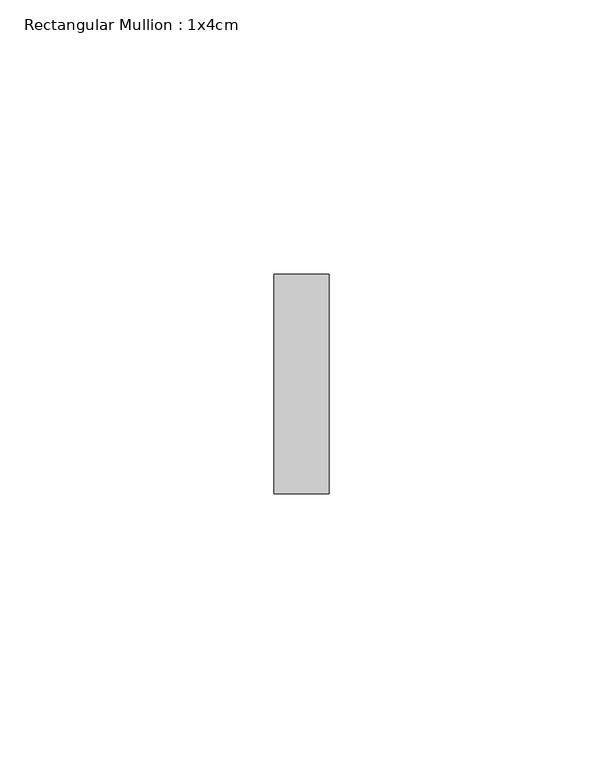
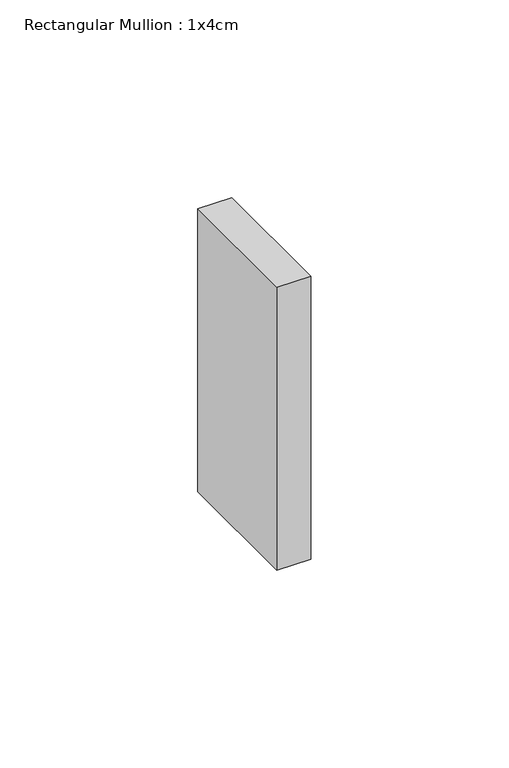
"""IFC4 building model written with IfcOpenShell, lengths in millimetres: member geometry, Rectangular Mullion : 1x4cm."""

import ifcopenshell
import ifcopenshell.guid

model = None  # the IFC model being written
_history = None  # IfcOwnerHistory: only IFC2X3 demands one
_inside = {}  # id of a spatial element -> (the spatial element, [elements in it])
_under = {}  # id of a project, library or spatial element -> (it, [spatial elements below it])
_declared = {}  # id of a project -> (the project, [libraries it declares])
_typed = {}  # id of a type object -> (the type object, [elements of that type])
_made_of = {}  # id of a material, layer set ... -> (it, [elements and type objects made of it])


def new_model(schema):
    """Start an empty IFC model of exactly this schema.

    Asked for "IFC4X3", IfcOpenShell would pick the latest addendum, in which some entities
    have other attributes; the version numbers below select the first issue.
    IFC2X3 requires an IfcOwnerHistory on every rooted entity: one is made here for all.
    """
    global model, _history
    if schema == "IFC4X3":
        model = ifcopenshell.file(schema_version=(4, 3, 0, 0))
    else:
        model = ifcopenshell.file(schema=schema)
    _inside.clear()
    _under.clear()
    _declared.clear()
    _typed.clear()
    _made_of.clear()
    _history = None
    if model.schema == "IFC2X3":
        org = make("IfcOrganization", Name="unknown")
        user = make(
            "IfcPersonAndOrganization",
            ThePerson=make("IfcPerson", FamilyName="unknown"),
            TheOrganization=org,
        )
        app = make(
            "IfcApplication",
            ApplicationDeveloper=org,
            Version="unknown",
            ApplicationFullName="unknown",
            ApplicationIdentifier="unknown",
        )
        _history = make(
            "IfcOwnerHistory",
            OwningUser=user,
            OwningApplication=app,
            ChangeAction="ADDED",
            CreationDate=0,
        )
    return model


def make(cls, **values):
    """One entity of the class cls with the attributes given. An attribute that is None is left unset."""
    return model.create_entity(
        cls, **{name: value for name, value in values.items() if value is not None}
    )


def rooted(cls, **values):
    """An entity with a GlobalId (a new one), such as an element, a storey or a relation."""
    return make(cls, GlobalId=ifcopenshell.guid.new(), OwnerHistory=_history, **values)


def si_unit(unit_type, name, prefix=None):
    """IfcSIUnit, for example si_unit("LENGTHUNIT", "METRE", prefix="MILLI")."""
    return make("IfcSIUnit", UnitType=unit_type, Prefix=prefix, Name=name)


def assignment(units):
    """IfcUnitAssignment: the units of a project."""
    return None if units is None else make("IfcUnitAssignment", Units=units)


def point(xyz):
    """IfcCartesianPoint."""
    return None if xyz is None else make("IfcCartesianPoint", Coordinates=xyz)


def direction(xyz):
    """IfcDirection."""
    return None if xyz is None else make("IfcDirection", DirectionRatios=xyz)


def frame(location, z_axis=None, x_axis=None):
    """IfcAxis2Placement3D, a coordinate frame: its origin and axes. An axis left out is left unset."""
    return make(
        "IfcAxis2Placement3D",
        Location=point(location),
        Axis=direction(z_axis),
        RefDirection=direction(x_axis),
    )


def origin():
    """The frame at (0, 0, 0) with its axes left unset."""
    return frame((0.0, 0.0, 0.0))


def place(relative_to, where):
    """IfcLocalPlacement: puts the frame where relative to a parent placement (None: the world)."""
    return make(
        "IfcLocalPlacement", PlacementRelTo=relative_to, RelativePlacement=where
    )


def context(
    kind, dimensions, precision=None, world=None, true_north=None, identifier=None
):
    """IfcGeometricRepresentationContext, for example the 3D "Model" context."""
    return make(
        "IfcGeometricRepresentationContext",
        ContextIdentifier=identifier,
        ContextType=kind,
        CoordinateSpaceDimension=dimensions,
        Precision=precision,
        WorldCoordinateSystem=world,
        TrueNorth=true_north,
    )


def project(units=None, contexts=None):
    """IfcProject with its units and contexts."""
    return rooted(
        "IfcProject",
        Name="project",
        RepresentationContexts=contexts,
        UnitsInContext=assignment(units),
    )


def spatial(cls, under=None, at=None, **own):
    """A site, building, storey or space (cls), placed at a placement, below another one or the project."""
    s = rooted(cls, ObjectPlacement=at, **own)
    if under is not None:
        _under.setdefault(under.id(), (under, []))[1].append(s)
    return s


def polyline(points):
    """IfcPolyline through the points."""
    return make("IfcPolyline", Points=[point(p) for p in points])


def outline(outer, holes=None, kind="AREA"):
    """IfcArbitraryClosedProfileDef: a profile drawn as a closed curve; with holes, ...WithVoids."""
    if holes is None:
        return make("IfcArbitraryClosedProfileDef", ProfileType=kind, OuterCurve=outer)
    return make(
        "IfcArbitraryProfileDefWithVoids",
        ProfileType=kind,
        OuterCurve=outer,
        InnerCurves=holes,
    )


def extrude(swept, where, along, depth):
    """IfcExtrudedAreaSolid: the profile swept, set in the frame where, extruded along a direction by depth."""
    return make(
        "IfcExtrudedAreaSolid",
        SweptArea=swept,
        Position=where,
        ExtrudedDirection=direction(along),
        Depth=depth,
    )


def shape(context_of_items, identifier, shape_type, items):
    """IfcShapeRepresentation: the items that make up one representation, for example the "Body"."""
    return make(
        "IfcShapeRepresentation",
        ContextOfItems=context_of_items,
        RepresentationIdentifier=identifier,
        RepresentationType=shape_type,
        Items=items,
    )


def source(mapping_origin, context_of_items, identifier, shape_type, items):
    """IfcRepresentationMap: a shape defined once, which mapped items show again and again."""
    return make(
        "IfcRepresentationMap",
        MappingOrigin=mapping_origin,
        MappedRepresentation=shape(context_of_items, identifier, shape_type, items),
    )


def transform(
    local_origin,
    x_axis=None,
    y_axis=None,
    z_axis=None,
    scale=None,
    scale2=None,
    scale3=None,
    uniform=True,
):
    """IfcCartesianTransformationOperator3D, or its non-uniform kind. x_axis, y_axis, z_axis: its Axis1, 2, 3."""
    if uniform:
        return make(
            "IfcCartesianTransformationOperator3D",
            Axis1=direction(x_axis),
            Axis2=direction(y_axis),
            LocalOrigin=point(local_origin),
            Scale=scale,
            Axis3=direction(z_axis),
        )
    return make(
        "IfcCartesianTransformationOperator3DnonUniform",
        Axis1=direction(x_axis),
        Axis2=direction(y_axis),
        LocalOrigin=point(local_origin),
        Scale=scale,
        Axis3=direction(z_axis),
        Scale2=scale2,
        Scale3=scale3,
    )


def mapped(mapping_source, mapping_target):
    """IfcMappedItem: shows the shape of a source again, moved by a transform."""
    return make(
        "IfcMappedItem", MappingSource=mapping_source, MappingTarget=mapping_target
    )


def made_of(thing, what):
    """Note that an element or type object is made of a material, layer set ...; save() writes the relation."""
    if what is not None:
        _made_of.setdefault(what.id(), (what, []))[1].append(thing)
    return thing


def element(
    cls,
    number,
    at=None,
    inside=None,
    cuts=None,
    type_object=None,
    material=None,
    context=None,
    identifier="Body",
    shape_type=None,
    held_by="IfcProductDefinitionShape",
    body=None,
    shapes=None,
    **own,
):
    """One element of the class cls, such as IfcWall. Its Tag is "e" and its number.

    at: its placement. inside: the storey or other place that contains it. cuts: it is an
    opening in that element (IfcRelVoidsElement). A single representation is given by context,
    identifier, shape_type and body (its items); several are given by shapes. held_by: the class
    of the entity that holds the representations. save() writes the other relations.
    """
    e = rooted(cls, Tag="e%d" % number, ObjectPlacement=at, **own)
    if body is not None:
        shapes = [shape(context, identifier, shape_type, body)]
    if shapes is not None:
        e.Representation = make(held_by, Representations=shapes)
    if inside is not None:
        _inside.setdefault(inside.id(), (inside, []))[1].append(e)
    if cuts is not None:
        rooted(
            "IfcRelVoidsElement", RelatingBuildingElement=cuts, RelatedOpeningElement=e
        )
    if type_object is not None:
        _typed.setdefault(type_object.id(), (type_object, []))[1].append(e)
    return made_of(e, material)


def aggregate(whole, parts):
    """IfcRelAggregates: a whole, such as a stair, and the parts it consists of."""
    return rooted("IfcRelAggregates", RelatingObject=whole, RelatedObjects=parts)


def save(model, path):
    """Write the relations noted so far, then the file.

    IfcRelAggregates (storeys below a building ...), IfcRelContainedInSpatialStructure (elements
    in a storey), IfcRelDefinesByType, IfcRelAssociatesMaterial and IfcRelDeclares: one each for
    every whole, place, type object, material and project.
    """
    for whole, parts in _under.values():
        aggregate(whole, parts)
    for where, things in _inside.values():
        rooted(
            "IfcRelContainedInSpatialStructure",
            RelatedElements=things,
            RelatingStructure=where,
        )
    for kind, things in _typed.values():
        rooted("IfcRelDefinesByType", RelatedObjects=things, RelatingType=kind)
    for what, things in _made_of.values():
        rooted("IfcRelAssociatesMaterial", RelatedObjects=things, RelatingMaterial=what)
    for by, libraries in _declared.values():
        rooted("IfcRelDeclares", RelatingContext=by, RelatedDefinitions=libraries)
    model.write(path)


def rectangular_mullion_1x4cm_b486f322(model_context):
    return source(origin(), model_context, "Body", "SweptSolid", [
        extrude(outline(polyline([(0.0, 20.0), (0.0, -20.0), (-10.0, -20.0), (-10.0, 20.0), (0.0, 20.0)])), frame((0.0, 0.0, -87.3695615), z_axis=(0.0, 0.0, 1.0), x_axis=(1.0, 0.0, 0.0)), (0.0, 0.0, 1.0), 87.3695615),
    ])


if __name__ == "__main__":
    model = new_model("IFC4")
    model_context = context("Model", 3, world=origin())
    ifc_project = project(units=[si_unit("LENGTHUNIT", "METRE", prefix="MILLI")], contexts=[model_context])
    site = spatial("IfcSite", under=ifc_project)
    building = spatial("IfcBuilding", under=site)
    placement = place(None, origin())
    rectangular_mullion_1x4cm_shape = rectangular_mullion_1x4cm_b486f322(model_context)
    element("IfcMember", 1, ObjectType="Rectangular Mullion : 1x4cm", at=placement, inside=building, context=model_context, shape_type="MappedRepresentation", body=[
        mapped(rectangular_mullion_1x4cm_shape, transform((0.0, 0.0, 0.0), x_axis=(1.0, 0.0, 0.0), y_axis=(0.0, 1.0, 0.0), z_axis=(0.0, 0.0, 1.0))),
    ])
    save(model, "model.ifc")
